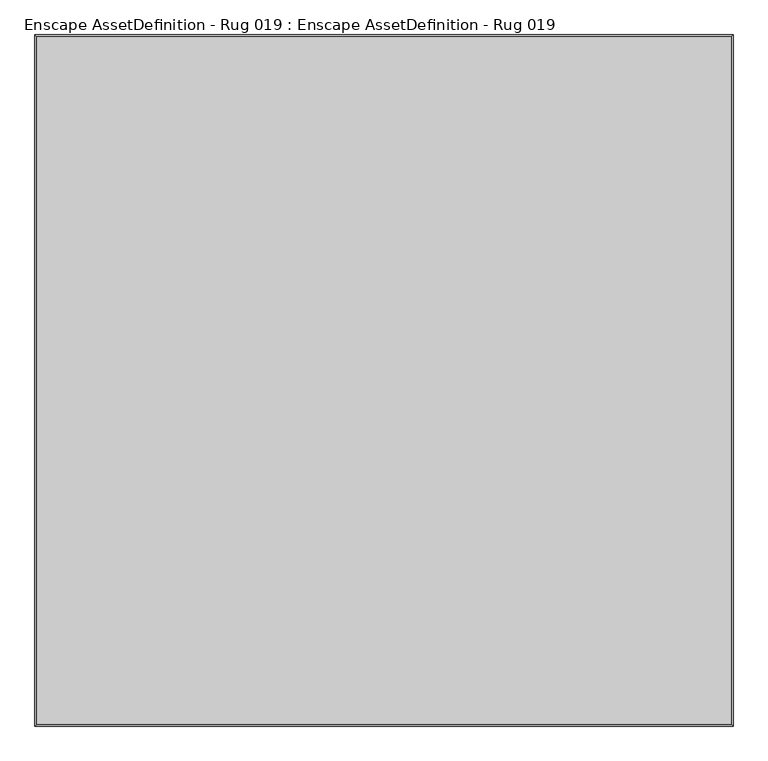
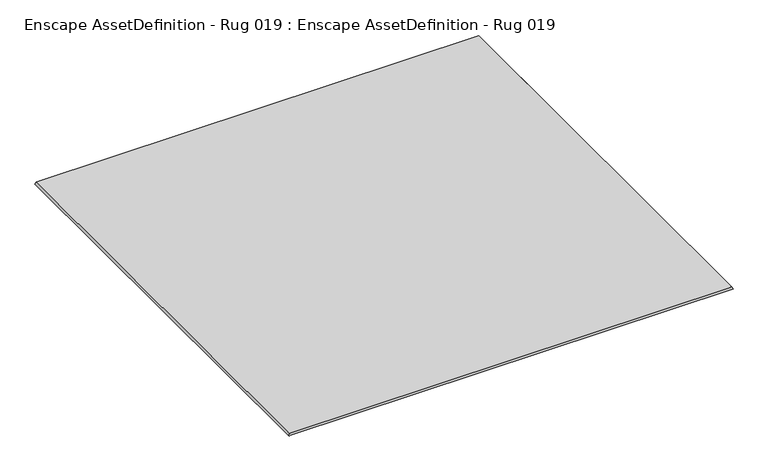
"""IFC4 building model written with IfcOpenShell, lengths in millimetres: geographic element geometry, Enscape AssetDefinition - Rug 019 : Enscape AssetDefinition - Rug 019."""

from ifc_helpers import new_model, si_unit, origin, place, context, project, spatial, triangles, source, transform, mapped, element, save


def enscape_assetdefinition_rug_019_enscape_assetdefinition_rug_03579923(model_context):
    return source(origin(), model_context, "Body", "Tessellation", [
        triangles([(-1504.1363869, 1490.027219, 14.9678545), (1504.1362415, -1490.027219, 14.9678284), (-1504.1363869, -1490.027219, 14.9678545), (1504.1362415, 1490.027219, 14.9678284), (-1509.1946537, -1495.0853405, 0.0), (1509.1946537, -1495.0853405, 0.0), (1509.1946537, 1495.0853405, 0.0), (-1509.1946537, 1495.0853405, 0.0)], [[8, 5, 3], [7, 8, 1], [6, 7, 4], [5, 6, 2], [3, 2, 4], [8, 3, 1], [7, 1, 4], [6, 4, 2], [5, 2, 3], [3, 4, 1]], closed=False),
    ])


if __name__ == "__main__":
    model = new_model("IFC4")
    model_context = context("Model", 3, world=origin())
    ifc_project = project(units=[si_unit("LENGTHUNIT", "METRE", prefix="MILLI")], contexts=[model_context])
    site = spatial("IfcSite", under=ifc_project)
    building = spatial("IfcBuilding", under=site)
    placement = place(None, origin())
    enscape_assetdefinition_rug_019_enscape_assetdefinition_rug_shape = enscape_assetdefinition_rug_019_enscape_assetdefinition_rug_03579923(model_context)
    element("IfcGeographicElement", 1, ObjectType="Enscape AssetDefinition - Rug 019 : Enscape AssetDefinition - Rug 019", at=placement, inside=building, context=model_context, shape_type="MappedRepresentation", body=[
        mapped(enscape_assetdefinition_rug_019_enscape_assetdefinition_rug_shape, transform((0.0, 0.0, 0.0), x_axis=(1.0, 0.0, 0.0), y_axis=(0.0, 1.0, 0.0), z_axis=(0.0, 0.0, 1.0))),
    ])
    save(model, "model.ifc")
